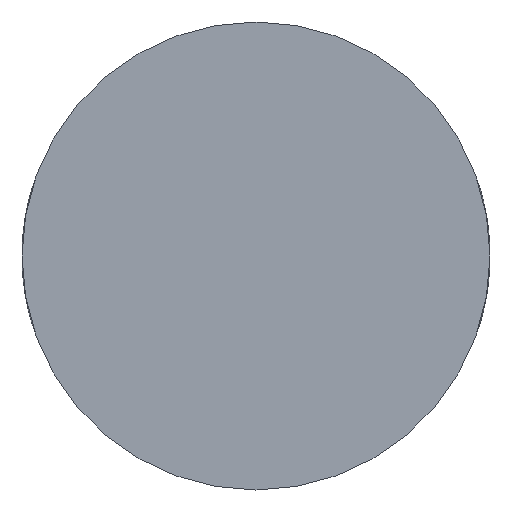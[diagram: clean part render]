
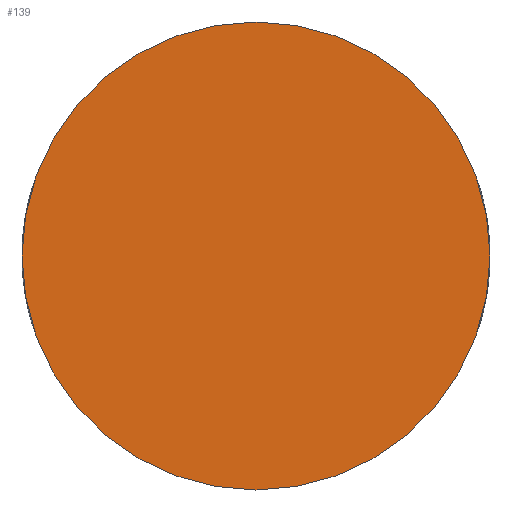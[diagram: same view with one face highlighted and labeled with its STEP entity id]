
A CAD part, front view. The second image highlights one B-rep face of the part: STEP entity #139.
In plain terms, the highlighted planar face has unit normal (0, -1, 0).
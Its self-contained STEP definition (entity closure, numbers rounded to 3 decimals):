
#67=PLANE('',#1666);
#139=ADVANCED_FACE('',(#207),#67,.T.);
#207=FACE_OUTER_BOUND('',#275,.F.);
#275=EDGE_LOOP('',(#397,#398));
#397=ORIENTED_EDGE('',*,*,#1344,.F.);
#398=ORIENTED_EDGE('',*,*,#1340,.F.);
#1160=CIRCLE('',#1644,17.25);
#1162=CIRCLE('',#1646,17.25);
#1340=EDGE_CURVE('',#1565,#1564,#1160,.T.);
#1344=EDGE_CURVE('',#1564,#1565,#1162,.T.);
#1564=VERTEX_POINT('',#2070);
#1565=VERTEX_POINT('',#2071);
#1644=AXIS2_PLACEMENT_3D('',#2264,#1767,#1768);
#1646=AXIS2_PLACEMENT_3D('',#2268,#1773,#1774);
#1666=AXIS2_PLACEMENT_3D('',#2468,#1833,#1834);
#1767=DIRECTION('',(0.,-1.,0.));
#1768=DIRECTION('',(1.,0.,0.));
#1773=DIRECTION('',(0.,-1.,0.));
#1774=DIRECTION('',(-1.,0.,0.));
#1833=DIRECTION('',(0.,-1.,0.));
#1834=DIRECTION('',(0.,0.,-1.));
#2070=CARTESIAN_POINT('',(1010.125,479.252,-848.126));
#2071=CARTESIAN_POINT('',(1044.625,479.252,-848.126));
#2264=CARTESIAN_POINT('',(1027.375,479.252,-848.126));
#2268=CARTESIAN_POINT('',(1027.375,479.252,-848.126));
#2468=CARTESIAN_POINT('',(1009.78,479.252,-830.531));
